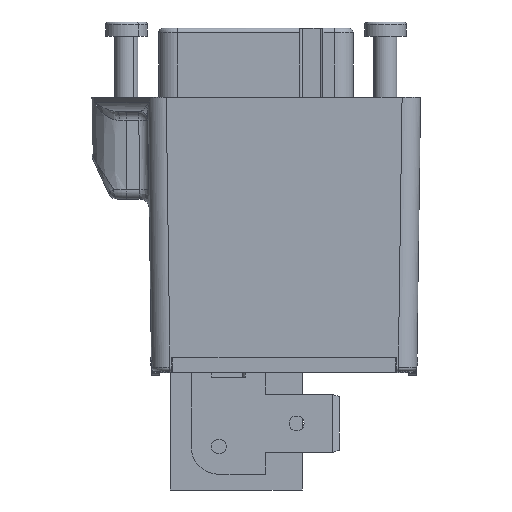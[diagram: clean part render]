
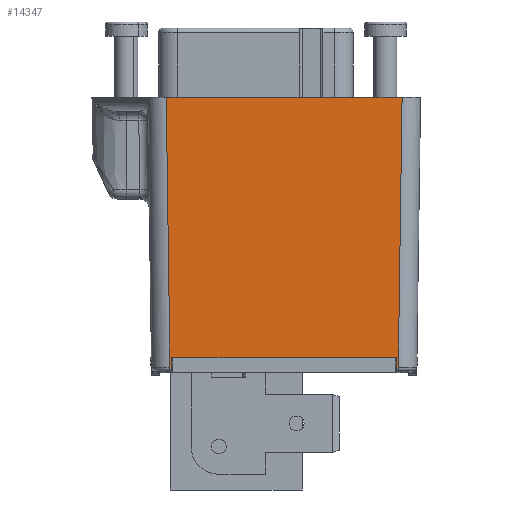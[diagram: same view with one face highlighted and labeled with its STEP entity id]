
A CAD part, left-side view. The second image highlights one B-rep face of the part: STEP entity #14347.
In plain terms, the highlighted planar face has unit normal (-1, 0, -0.014).
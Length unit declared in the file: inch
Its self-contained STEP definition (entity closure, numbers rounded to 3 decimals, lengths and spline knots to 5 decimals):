
#1665=DIRECTION('',(-0.014,0.,1.));
#1666=VECTOR('',#1665,0.03965);
#1667=CARTESIAN_POINT('',(-0.61389,-0.5979,
-1.15185));
#1668=LINE('',#1667,#1666);
#1725=DIRECTION('',(0.014,0.,-1.));
#1726=VECTOR('',#1725,0.03965);
#1727=CARTESIAN_POINT('',(-0.61445,0.35774,
-1.1122));
#1728=LINE('',#1727,#1726);
#3056=DIRECTION('',(0.014,-0.014,-1.));
#3057=VECTOR('',#3056,1.14814);
#3058=CARTESIAN_POINT('',(-0.62992,0.3819,
-0.00394));
#3059=LINE('',#3058,#3057);
#3060=DIRECTION('',(0.,1.,0.));
#3061=VECTOR('',#3060,1.00395);
#3062=CARTESIAN_POINT('',(-0.62992,-0.62205,
-0.00394));
#3063=LINE('',#3062,#3061);
#3064=DIRECTION('',(-0.014,-0.014,1.));
#3065=VECTOR('',#3064,1.14814);
#3066=CARTESIAN_POINT('',(-0.61389,-0.60603,
-1.15185));
#3067=LINE('',#3066,#3065);
#3068=DIRECTION('',(0.,-1.,0.));
#3069=VECTOR('',#3068,0.95564);
#3070=CARTESIAN_POINT('',(-0.61445,0.35774,
-1.1122));
#3071=LINE('',#3070,#3069);
#3072=DIRECTION('',(0.,1.,0.));
#3073=VECTOR('',#3072,0.00813);
#3074=CARTESIAN_POINT('',(-0.61389,-0.60603,
-1.15185));
#3075=LINE('',#3074,#3073);
#3102=DIRECTION('',(0.,1.,0.));
#3103=VECTOR('',#3102,0.00813);
#3104=CARTESIAN_POINT('',(-0.61389,0.35774,
-1.15185));
#3105=LINE('',#3104,#3103);
#8717=CARTESIAN_POINT('',(-0.61389,-0.60603,
-1.15185));
#8718=CARTESIAN_POINT('',(-0.62992,-0.62205,
-0.00394));
#8719=VERTEX_POINT('',#8717);
#8720=VERTEX_POINT('',#8718);
#8841=CARTESIAN_POINT('',(-0.61389,-0.5979,
-1.15185));
#8842=VERTEX_POINT('',#8841);
#8855=CARTESIAN_POINT('',(-0.62992,0.3819,
-0.00394));
#8856=VERTEX_POINT('',#8855);
#8868=CARTESIAN_POINT('',(-0.61389,0.36587,
-1.15185));
#8869=VERTEX_POINT('',#8868);
#8870=CARTESIAN_POINT('',(-0.61389,0.35774,
-1.15185));
#8871=VERTEX_POINT('',#8870);
#8872=CARTESIAN_POINT('',(-0.61445,-0.5979,
-1.1122));
#8873=VERTEX_POINT('',#8872);
#8928=CARTESIAN_POINT('',(-0.61445,0.35774,
-1.1122));
#8929=VERTEX_POINT('',#8928);
#14330=CARTESIAN_POINT('',(-0.62992,0.46063,
-0.00394));
#14331=DIRECTION('',(-1.,0.,-0.014));
#14332=DIRECTION('',(-0.014,0.,1.));
#14333=AXIS2_PLACEMENT_3D('',#14330,#14331,#14332);
#14334=PLANE('',#14333);
#14335=ORIENTED_EDGE('',*,*,#12474,.F.);
#14336=ORIENTED_EDGE('',*,*,#14223,.F.);
#14337=ORIENTED_EDGE('',*,*,#14321,.F.);
#14339=ORIENTED_EDGE('',*,*,#14338,.T.);
#14340=ORIENTED_EDGE('',*,*,#12213,.T.);
#14341=ORIENTED_EDGE('',*,*,#12232,.F.);
#14342=ORIENTED_EDGE('',*,*,#12282,.T.);
#14344=ORIENTED_EDGE('',*,*,#14343,.T.);
#14345=EDGE_LOOP('',(#14335,#14336,#14337,#14339,#14340,#14341,#14342,#14344));
#14346=FACE_OUTER_BOUND('',#14345,.F.);
#12213=EDGE_CURVE('',#8842,#8873,#1668,.T.);
#12232=EDGE_CURVE('',#8929,#8873,#3071,.T.);
#12282=EDGE_CURVE('',#8929,#8871,#1728,.T.);
#12474=EDGE_CURVE('',#8856,#8869,#3059,.T.);
#14223=EDGE_CURVE('',#8720,#8856,#3063,.T.);
#14321=EDGE_CURVE('',#8719,#8720,#3067,.T.);
#14338=EDGE_CURVE('',#8719,#8842,#3075,.T.);
#14343=EDGE_CURVE('',#8871,#8869,#3105,.T.);
#14347=ADVANCED_FACE('',(#14346),#14334,.T.);
